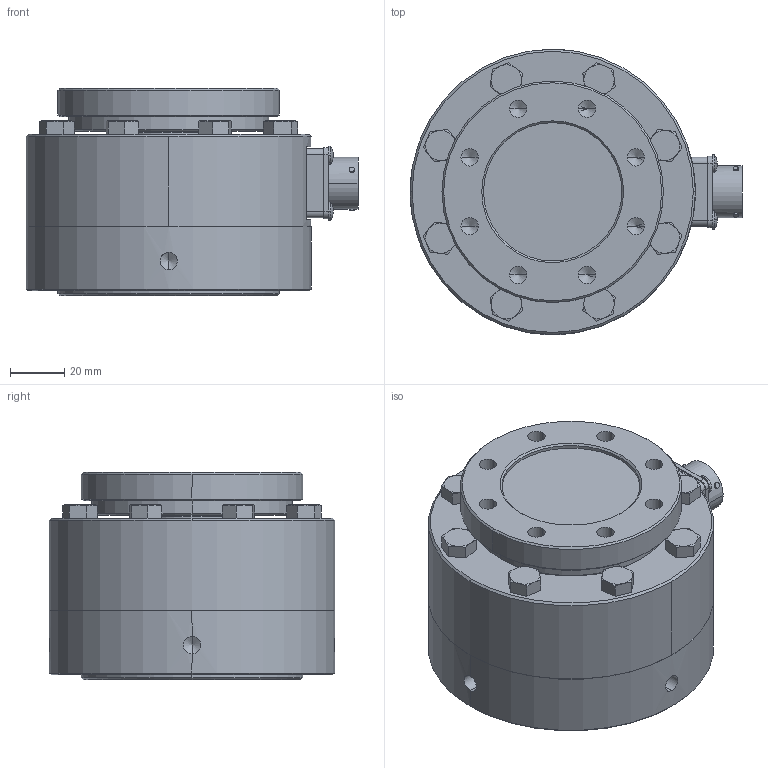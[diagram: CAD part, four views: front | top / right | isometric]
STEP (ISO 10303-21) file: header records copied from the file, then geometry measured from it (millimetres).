
FILE_DESCRIPTION (( 'STEP AP203' ), '1' );
FILE_NAME ('Interface 1216-250 thru -2K.STEP', '2012-03-07T20:49:30', ( 'Ken Vining' ), ( '' ), 'SwSTEP 2.0', 'SolidWorks 2002349', '' );
FILE_SCHEMA (( 'CONFIG_CONTROL_DESIGN' ));
Length unit declared in the file: inch
Products named in the file (1): Interface 1216-250 thru -2K
Bounding box: 121.86 x 104.75 x 76.07 mm (x, y, z)
Volume: 578154.9 mm3; surface area: 56435.9 mm2
Topology: 1 solids, 1 shells, 364 faces, 893 edges, 540 vertices
Faces by surface type: plane 138, cone 116, cylinder 102, sphere 8
Entity records: 10928 total; most frequent: CARTESIAN_POINT 2436, DIRECTION 1803, ORIENTED_EDGE 1706, EDGE_CURVE 853, AXIS2_PLACEMENT_3D 703, VERTEX_POINT 540, EDGE_LOOP 413, LINE 397
